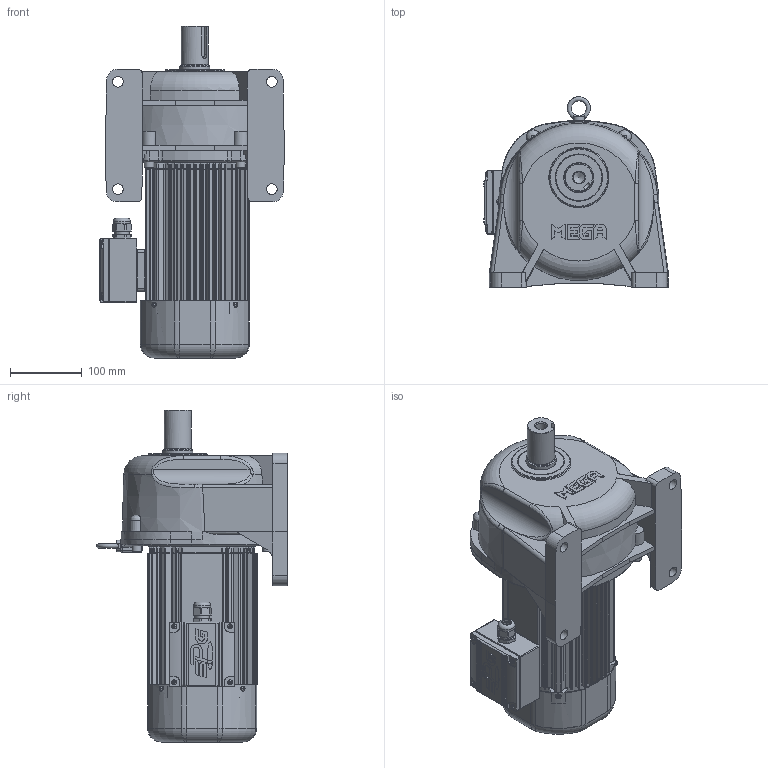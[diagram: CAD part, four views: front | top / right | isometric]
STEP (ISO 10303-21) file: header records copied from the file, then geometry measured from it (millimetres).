
FILE_DESCRIPTION(/* description */ (''),/* implementation_level */ '2;1');
FILE_NAME(/* name */ 'Z:\동력 3D 파일\PML153_0.75kW_Brake_3D.stp',/* time_stamp */ '2021-11-30T14:32:47+09:00',/* author */ ('jaebok'),/* organization */ (''),/* preprocessor_version */ 'ST-DEVELOPER v18.1',/* originating_system */ 'Autodesk Inventor 2022',/* authorisation */ '');
FILE_SCHEMA (('AUTOMOTIVE_DESIGN { 1 0 10303 214 3 1 1 }'));
Length unit declared in the file: millimetre
Products named in the file (1): 부품3
Bounding box: 258 x 266.3 x 464 mm (x, y, z)
Volume: 3830680 mm3; surface area: 941262.3 mm2
Topology: 2 solids, 32 shells, 3181 faces, 8238 edges, 4983 vertices
Faces by surface type: plane 1073, cylinder 889, bspline 712, torus 280, cone 155, sphere 72
Full cylindrical faces by diameter (mm): 2 x1, 3.25 x1, 3.6 x4, 4 x17, 5 x13, 6 x1, 6.647 x4, 6.8 x1, 7 x13, 8 x13, 9 x4, 10 x1, 12.5 x1, 13 x4, 15 x5, 16 x1, 20 x2, 20.6 x1, 21 x2, 23.6 x1, 25 x1, 28 x1, 35 x1, 36 x1, 38 x1, 39.6 x1, 40.15 x1, 42 x3, 44 x2, 45 x1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
Entity records: 126491 total; most frequent: CARTESIAN_POINT 49884, ORIENTED_EDGE 16080, DIRECTION 14414, EDGE_CURVE 8040, AXIS2_PLACEMENT_3D 5695, VERTEX_POINT 4974, EDGE_LOOP 3362, FACE_OUTER_BOUND 3181
